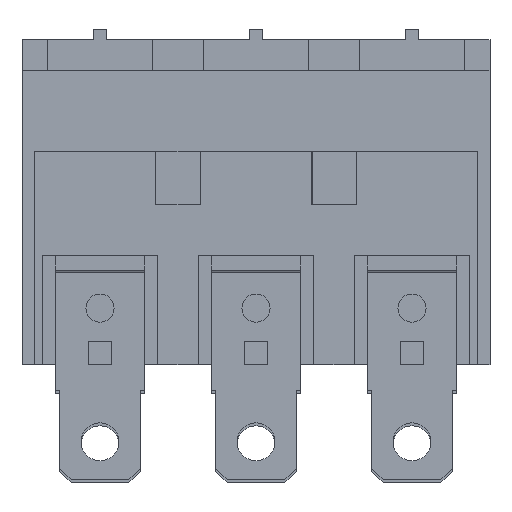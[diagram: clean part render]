
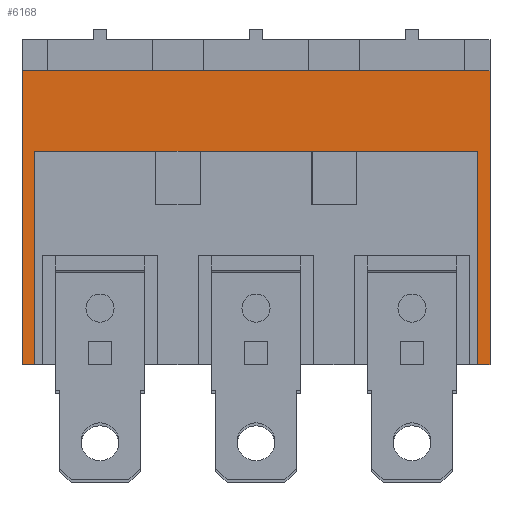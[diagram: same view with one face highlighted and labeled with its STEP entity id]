
A CAD part, front view. The second image highlights one B-rep face of the part: STEP entity #6168.
In plain terms, the highlighted planar face has unit normal (0, -1, 0).
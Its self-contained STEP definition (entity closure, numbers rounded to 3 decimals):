
#319 = CARTESIAN_POINT ( 'NONE',  ( 52.5, -84.5, -75.3 ) ) ;
#434 = DIRECTION ( 'NONE',  ( 0., 0., 1. ) ) ;
#466 = ORIENTED_EDGE ( 'NONE', *, *, #8413, .T. ) ;
#600 = FACE_OUTER_BOUND ( 'NONE', #9106, .T. ) ;
#1464 = EDGE_CURVE ( 'NONE', #9391, #8096, #11685, .T. ) ;
#1990 = EDGE_CURVE ( 'NONE', #5769, #15615, #13179, .T. ) ;
#2065 = VECTOR ( 'NONE', #10819, 1000. ) ;
#2336 = DIRECTION ( 'NONE',  ( -1., 0., 0. ) ) ;
#2363 = VECTOR ( 'NONE', #17349, 1000. ) ;
#2531 = VERTEX_POINT ( 'NONE', #4694 ) ;
#2973 = CARTESIAN_POINT ( 'NONE',  ( -52.5, -84.5, -75.3 ) ) ;
#3082 = CARTESIAN_POINT ( 'NONE',  ( 49.8, -84.5, -75.3 ) ) ;
#3085 = CARTESIAN_POINT ( 'NONE',  ( -49.8, -84.5, -75.3 ) ) ;
#3503 = EDGE_CURVE ( 'NONE', #5144, #15615, #3819, .T. ) ;
#3819 = LINE ( 'NONE', #16397, #2065 ) ;
#4392 = VECTOR ( 'NONE', #8576, 1000. ) ;
#4694 = CARTESIAN_POINT ( 'NONE',  ( 52.5, -84.5, -9.3 ) ) ;
#4760 = ORIENTED_EDGE ( 'NONE', *, *, #1990, .T. ) ;
#4898 = CARTESIAN_POINT ( 'NONE',  ( 49.8, -84.5, -27.3 ) ) ;
#4988 = ORIENTED_EDGE ( 'NONE', *, *, #3503, .F. ) ;
#5144 = VERTEX_POINT ( 'NONE', #4898 ) ;
#5558 = DIRECTION ( 'NONE',  ( 0., 0., -1. ) ) ;
#5647 = VECTOR ( 'NONE', #11637, 1000. ) ;
#5769 = VERTEX_POINT ( 'NONE', #15063 ) ;
#6168 = ADVANCED_FACE ( 'NONE', ( #600 ), #10937, .F. ) ;
#6670 = CARTESIAN_POINT ( 'NONE',  ( 52.5, -84.5, -9.3 ) ) ;
#6800 = LINE ( 'NONE', #17448, #9443 ) ;
#6999 = VECTOR ( 'NONE', #434, 1000. ) ;
#7446 = ORIENTED_EDGE ( 'NONE', *, *, #14871, .T. ) ;
#7944 = CARTESIAN_POINT ( 'NONE',  ( -49.8, -84.5, -182.808 ) ) ;
#8096 = VERTEX_POINT ( 'NONE', #14502 ) ;
#8165 = LINE ( 'NONE', #12908, #4392 ) ;
#8413 = EDGE_CURVE ( 'NONE', #8454, #5769, #17729, .T. ) ;
#8454 = VERTEX_POINT ( 'NONE', #2973 ) ;
#8576 = DIRECTION ( 'NONE',  ( -1., 0., 0. ) ) ;
#9106 = EDGE_LOOP ( 'NONE', ( #10675, #7446, #466, #4760, #4988, #14172, #10231, #12486 ) ) ;
#9378 = DIRECTION ( 'NONE',  ( 0., 1., 0. ) ) ;
#9391 = VERTEX_POINT ( 'NONE', #3082 ) ;
#9443 = VECTOR ( 'NONE', #14737, 1000. ) ;
#9912 = CARTESIAN_POINT ( 'NONE',  ( -52.5, -84.5, -9.3 ) ) ;
#10135 = CARTESIAN_POINT ( 'NONE',  ( 49.8, -84.5, -182.808 ) ) ;
#10231 = ORIENTED_EDGE ( 'NONE', *, *, #1464, .T. ) ;
#10675 = ORIENTED_EDGE ( 'NONE', *, *, #14316, .T. ) ;
#10705 = VERTEX_POINT ( 'NONE', #17408 ) ;
#10725 = AXIS2_PLACEMENT_3D ( 'NONE', #6670, #9378, #2336 ) ;
#10819 = DIRECTION ( 'NONE',  ( -1., 0., 0. ) ) ;
#10937 = PLANE ( 'NONE',  #10725 ) ;
#11637 = DIRECTION ( 'NONE',  ( 0., 0., 1. ) ) ;
#11681 = VECTOR ( 'NONE', #5558, 1000. ) ;
#11685 = LINE ( 'NONE', #319, #2363 ) ;
#12486 = ORIENTED_EDGE ( 'NONE', *, *, #15056, .F. ) ;
#12877 = DIRECTION ( 'NONE',  ( 1., 0., 0. ) ) ;
#12908 = CARTESIAN_POINT ( 'NONE',  ( 52.5, -84.5, -9.3 ) ) ;
#13179 = LINE ( 'NONE', #7944, #6999 ) ;
#13985 = VECTOR ( 'NONE', #12877, 1000. ) ;
#14172 = ORIENTED_EDGE ( 'NONE', *, *, #15576, .F. ) ;
#14316 = EDGE_CURVE ( 'NONE', #2531, #10705, #8165, .T. ) ;
#14388 = CARTESIAN_POINT ( 'NONE',  ( -49.8, -84.5, -27.3 ) ) ;
#14502 = CARTESIAN_POINT ( 'NONE',  ( 52.5, -84.5, -75.3 ) ) ;
#14737 = DIRECTION ( 'NONE',  ( 0., 0., -1. ) ) ;
#14871 = EDGE_CURVE ( 'NONE', #10705, #8454, #15183, .T. ) ;
#15056 = EDGE_CURVE ( 'NONE', #2531, #8096, #6800, .T. ) ;
#15063 = CARTESIAN_POINT ( 'NONE',  ( -49.8, -84.5, -75.3 ) ) ;
#15183 = LINE ( 'NONE', #9912, #11681 ) ;
#15576 = EDGE_CURVE ( 'NONE', #9391, #5144, #15590, .T. ) ;
#15590 = LINE ( 'NONE', #10135, #5647 ) ;
#15615 = VERTEX_POINT ( 'NONE', #14388 ) ;
#16397 = CARTESIAN_POINT ( 'NONE',  ( 52.5, -84.5, -27.3 ) ) ;
#17349 = DIRECTION ( 'NONE',  ( 1., 0., 0. ) ) ;
#17408 = CARTESIAN_POINT ( 'NONE',  ( -52.5, -84.5, -9.3 ) ) ;
#17448 = CARTESIAN_POINT ( 'NONE',  ( 52.5, -84.5, -9.3 ) ) ;
#17729 = LINE ( 'NONE', #3085, #13985 ) ;
